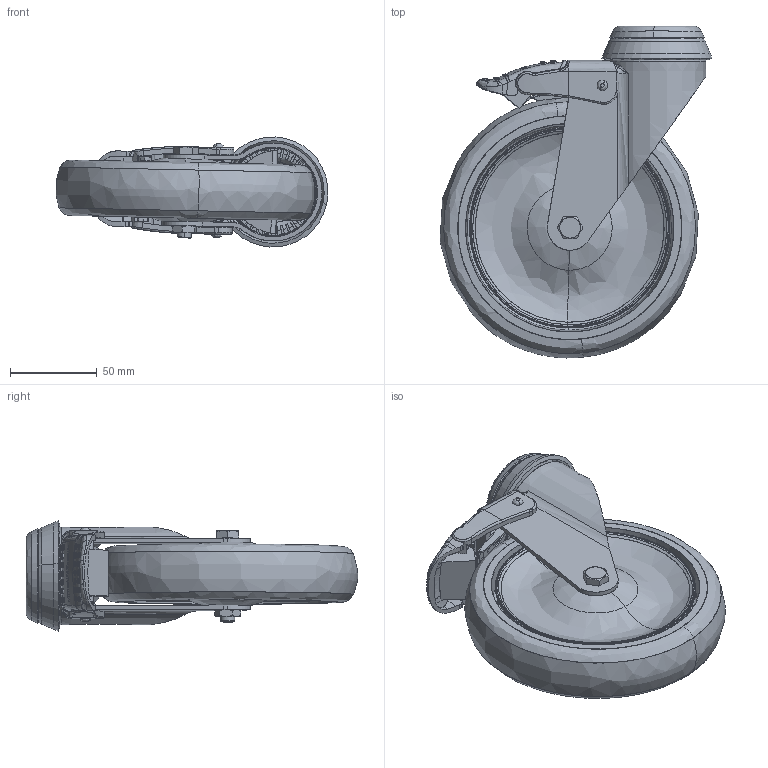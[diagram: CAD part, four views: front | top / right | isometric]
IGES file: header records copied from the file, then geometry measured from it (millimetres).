
Start section: SolidWorks IGES file using analytic representation for surfaces
Global section: file name: S:\Tyokansio\VL\14.2.2012\300894_IGES.IGS; native system: SolidWorks 2011; preprocessor: SolidWorks 2011; author: VilleLa; date: 120228.090057; units: millimetre
Bounding box: 156.54 x 191.08 x 63.32 mm (x, y, z)
Surface area: 159795.1 mm2 (no closed solid volume)
Topology: 0 solids, 0 shells, 714 faces, 10263 edges, 10254 vertices
Faces by surface type: bspline 568, revolution 146
